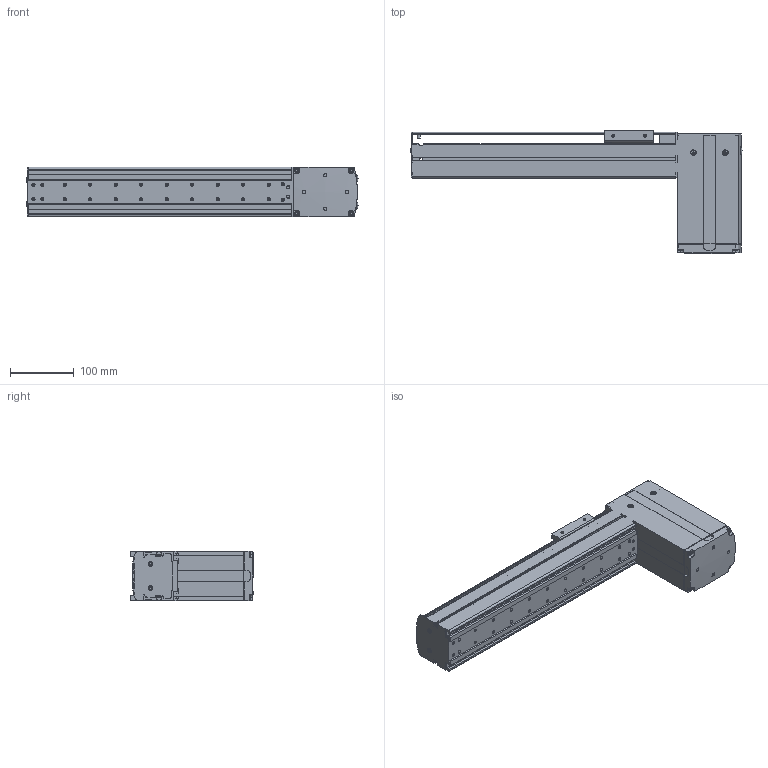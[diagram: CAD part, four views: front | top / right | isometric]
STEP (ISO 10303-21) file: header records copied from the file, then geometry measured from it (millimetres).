
FILE_DESCRIPTION((''),'2;1');
FILE_NAME('BE10_-BU-S_N-25_IGS_PRT','2017-06-18T',(' '),(''),'PRO/ENGINEER BY PARAMETRIC TECHNOLOGY CORPORATION, 2015030','PRO/ENGINEER BY PARAMETRIC TECHNOLOGY CORPORATION, 2015030','');
FILE_SCHEMA(('CONFIG_CONTROL_DESIGN'));
Length unit declared in the file: millimetre
Products named in the file (1): BE10_-BU-S_N-25_IGS_PRT
Bounding box: 520.8 x 193 x 78 mm (x, y, z)
Volume: 790354.8 mm3; surface area: 560777.3 mm2
Topology: 3 solids, 100 shells, 1811 faces, 4917 edges, 3217 vertices
Faces by surface type: plane 890, cylinder 760, cone 119, sphere 21, torus 19, bspline 2
Entity records: 58366 total; most frequent: CARTESIAN_POINT 11726, DIRECTION 9911, ORIENTED_EDGE 9390, EDGE_CURVE 4863, AXIS2_PLACEMENT_3D 3479, VERTEX_POINT 3217, VECTOR 2953, LINE 2953
